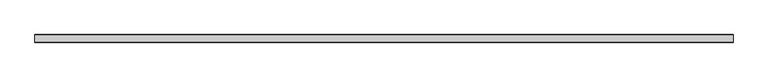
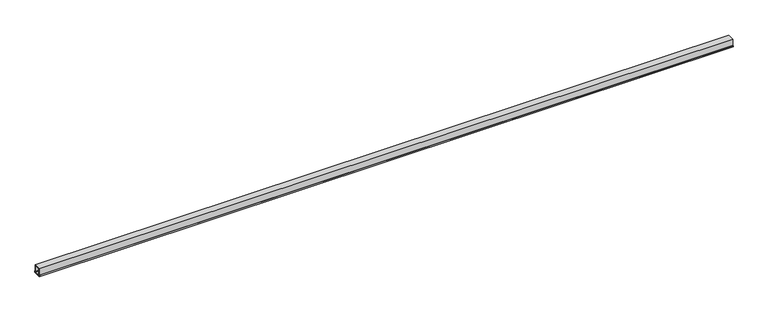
"""IFC4 building model written with IfcOpenShell, lengths in millimetres: light fixture geometry, 20207_レースウェイ : 45型×w40."""

from ifc_helpers import new_model, si_unit, frame, origin, place, context, project, spatial, polyline, outline, extrude, source, transform, mapped, element, save


def light_fixture_06242c1b(model_context):
    return source(origin(), model_context, "Body", "SweptSolid", [
        extrude(outline(polyline([(-21.7, 8.2), (-20.5, 8.2), (-20.5, 1.2), (20.5, 1.2), (20.5, 8.2), (21.7, 8.2), (21.7, 0.0), (-21.7, 0.0), (-21.7, 8.2)])), frame((-1977.5, 0.0, 0.0), z_axis=(1.0, 0.0, 0.0), x_axis=(0.0, 1.0, 0.0)), (0.0, 0.0, 1.0), 3955.0),
        extrude(outline(polyline([(-20.0, 46.2), (20.0, 46.2), (20.0, 1.2), (18.4, 1.2), (10.0, 11.2), (11.2251278, 12.2291073), (18.4, 3.6875928), (18.4, 44.6), (-18.4, 44.6), (-18.4, 3.6875928), (-11.2251278, 12.2291073), (-10.0, 11.2), (-18.4, 1.2), (-20.0, 1.2), (-20.0, 46.2)])), frame((-1977.5, 0.0, 0.0), z_axis=(1.0, 0.0, 0.0), x_axis=(0.0, 1.0, 0.0)), (0.0, 0.0, 1.0), 3955.0),
    ])


if __name__ == "__main__":
    model = new_model("IFC4")
    model_context = context("Model", 3, world=origin())
    ifc_project = project(units=[si_unit("LENGTHUNIT", "METRE", prefix="MILLI")], contexts=[model_context])
    site = spatial("IfcSite", under=ifc_project)
    building = spatial("IfcBuilding", under=site)
    placement = place(None, origin())
    light_fixture_shape = light_fixture_06242c1b(model_context)
    element("IfcLightFixture", 1, ObjectType="20207_レースウェイ : 45型×w40", at=placement, inside=building, context=model_context, shape_type="MappedRepresentation", body=[
        mapped(light_fixture_shape, transform((0.0, 0.0, 0.0), x_axis=(1.0, 0.0, 0.0), y_axis=(0.0, 1.0, 0.0), z_axis=(0.0, 0.0, 1.0))),
    ])
    save(model, "model.ifc")
